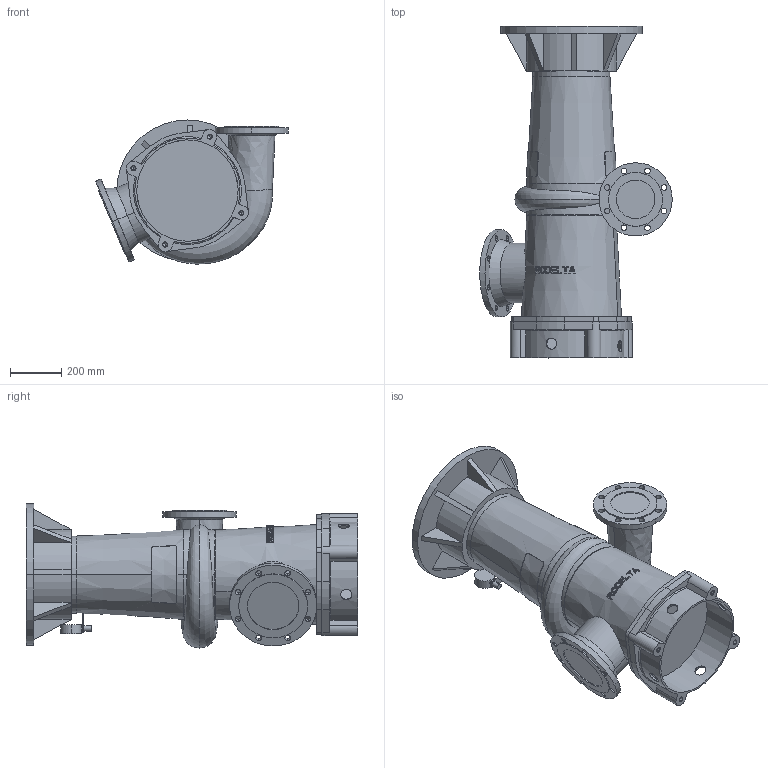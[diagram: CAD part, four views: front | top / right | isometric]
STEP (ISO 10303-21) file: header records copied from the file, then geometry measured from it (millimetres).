
FILE_DESCRIPTION((''),'2;1');
FILE_NAME('7410_VOOR_BLAD_ASM','2024-07-24T',('Lyritlocal'),(''),'PRO/ENGINEER BY PARAMETRIC TECHNOLOGY CORPORATION, 2016360','PRO/ENGINEER BY PARAMETRIC TECHNOLOGY CORPORATION, 2016360','');
FILE_SCHEMA(('CONFIG_CONTROL_DESIGN'));
Length unit declared in the file: millimetre
Products named in the file (3): 7410; 7410_VOET; 7410_VOOR_BLAD_ASM
Assembly tree (2 placements, depth 2):
  7410_VOOR_BLAD_ASM
    7410
    7410_VOET
Bounding box: 749.5 x 1292 x 561.27 mm (x, y, z)
Volume: 142858668 mm3; surface area: 3346063.5 mm2
Topology: 2 solids, 6 shells, 554 faces, 1491 edges, 983 vertices
Faces by surface type: plane 368, cylinder 138, cone 38, bspline 6, torus 4
Entity records: 19705 total; most frequent: CARTESIAN_POINT 6220, ORIENTED_EDGE 2950, DIRECTION 2529, EDGE_CURVE 1483, VERTEX_POINT 983, AXIS2_PLACEMENT_3D 961, EDGE_LOOP 646, VECTOR 607
